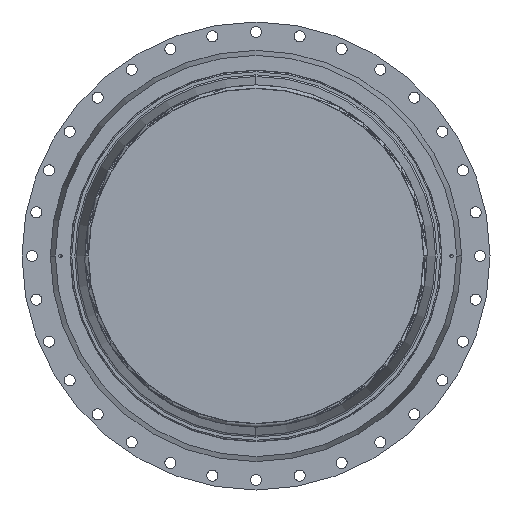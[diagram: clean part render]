
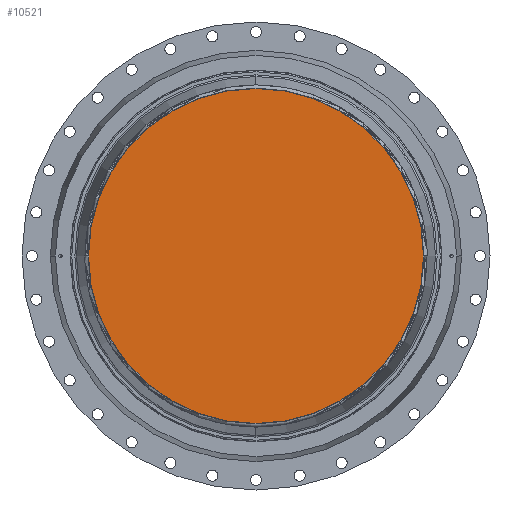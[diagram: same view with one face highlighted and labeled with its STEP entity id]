
A CAD part, front view. The second image highlights one B-rep face of the part: STEP entity #10521.
In plain terms, the highlighted planar face has unit normal (0, -1, 0).
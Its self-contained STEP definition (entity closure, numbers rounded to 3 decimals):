
#6178 = EDGE_LOOP ( 'NONE', ( #140582, #239033 ) ) ;
#10521 = ADVANCED_FACE ( 'NONE', ( #149628 ), #147090, .F. ) ;
#51716 = DIRECTION ( 'NONE',  ( 0., -1., 0. ) ) ;
#67838 = EDGE_CURVE ( 'NONE', #77829, #264123, #173578, .T. ) ;
#77829 = VERTEX_POINT ( 'NONE', #242120 ) ;
#96213 = CARTESIAN_POINT ( 'NONE',  ( 0., 0., 0. ) ) ;
#102154 = DIRECTION ( 'NONE',  ( 0., 1., 0. ) ) ;
#103468 = AXIS2_PLACEMENT_3D ( 'NONE', #238799, #102154, #261717 ) ;
#108931 = AXIS2_PLACEMENT_3D ( 'NONE', #188402, #51716, #211329 ) ;
#118700 = CARTESIAN_POINT ( 'NONE',  ( -500.958, 0., 0. ) ) ;
#119171 = DIRECTION ( 'NONE',  ( 1., 0., 0. ) ) ;
#140582 = ORIENTED_EDGE ( 'NONE', *, *, #67838, .T. ) ;
#147090 = PLANE ( 'NONE',  #103468 ) ;
#149628 = FACE_OUTER_BOUND ( 'NONE', #6178, .T. ) ;
#173578 = CIRCLE ( 'NONE', #108931, 500.958 ) ;
#188402 = CARTESIAN_POINT ( 'NONE',  ( 0., 0., 0. ) ) ;
#207711 = EDGE_CURVE ( 'NONE', #264123, #77829, #268511, .T. ) ;
#211329 = DIRECTION ( 'NONE',  ( 1., 0., 0. ) ) ;
#238799 = CARTESIAN_POINT ( 'NONE',  ( -502.042, 0., 500000. ) ) ;
#239033 = ORIENTED_EDGE ( 'NONE', *, *, #207711, .T. ) ;
#242120 = CARTESIAN_POINT ( 'NONE',  ( 500.958, 0., 0. ) ) ;
#255826 = DIRECTION ( 'NONE',  ( 0., -1., 0. ) ) ;
#261717 = DIRECTION ( 'NONE',  ( -1., 0., 0. ) ) ;
#263458 = AXIS2_PLACEMENT_3D ( 'NONE', #96213, #255826, #119171 ) ;
#264123 = VERTEX_POINT ( 'NONE', #118700 ) ;
#268511 = CIRCLE ( 'NONE', #263458, 500.958 ) ;
